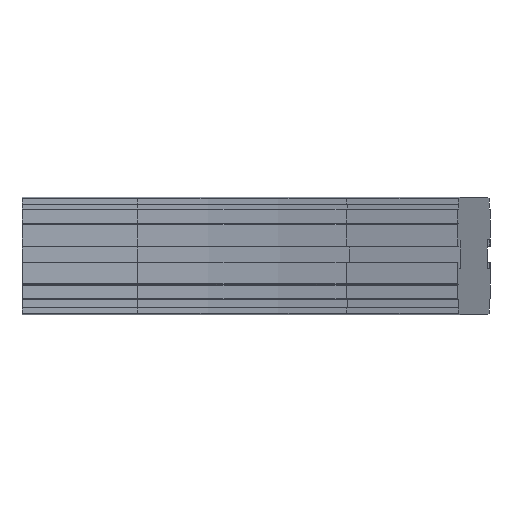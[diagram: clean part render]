
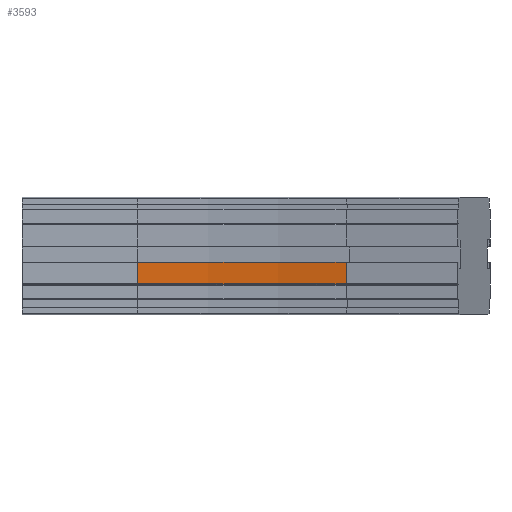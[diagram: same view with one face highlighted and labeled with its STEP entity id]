
A CAD part, front view. The second image highlights one B-rep face of the part: STEP entity #3593.
In plain terms, the highlighted cylindrical face has radius 557 mm (diameter 1114 mm), a partial arc.
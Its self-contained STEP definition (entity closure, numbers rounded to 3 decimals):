
#2261=CARTESIAN_POINT('',(224.162,-61.979,-60.));
#2262=VERTEX_POINT('',#2261);
#2292=CARTESIAN_POINT('',(224.162,-61.979,-45.));
#2293=VERTEX_POINT('',#2292);
#2300=CARTESIAN_POINT('',(224.162,-61.979,-60.));
#2301=DIRECTION('',(0.0,0.0,1.0));
#2302=VECTOR('',#2301,15.0);
#2303=LINE('',#2300,#2302);
#2304=EDGE_CURVE('',#2262,#2293,#2303,.T.);
#3550=CARTESIAN_POINT('',(80.0,-43.0,-60.));
#3551=VERTEX_POINT('',#3550);
#3552=CARTESIAN_POINT('',(80.0,-600.0,-60.));
#3553=DIRECTION('',(0.0,0.0,-1.));
#3554=DIRECTION('',(-0.259,-0.966,0.0));
#3555=AXIS2_PLACEMENT_3D('',#3552,#3553,#3554);
#3556=CIRCLE('',#3555,557.);
#3557=EDGE_CURVE('',#3551,#2262,#3556,.T.);
#3569=CARTESIAN_POINT('',(80.0,-600.0,-52.5));
#3570=DIRECTION('',(0.0,0.0,-1.0));
#3571=DIRECTION('',(-0.259,-0.966,0.0));
#3572=AXIS2_PLACEMENT_3D('',#3569,#3570,#3571);
#3573=CYLINDRICAL_SURFACE('',#3572,557.0);
#3574=ORIENTED_EDGE('',*,*,#2304,.T.);
#3575=CARTESIAN_POINT('',(80.0,-43.0,-45.));
#3576=VERTEX_POINT('',#3575);
#3577=CARTESIAN_POINT('',(80.0,-600.0,-45.));
#3578=DIRECTION('',(0.0,0.0,-1.));
#3579=DIRECTION('',(-0.259,-0.966,0.0));
#3580=AXIS2_PLACEMENT_3D('',#3577,#3578,#3579);
#3581=CIRCLE('',#3580,557.);
#3582=EDGE_CURVE('',#3576,#2293,#3581,.T.);
#3583=ORIENTED_EDGE('',*,*,#3582,.F.);
#3584=CARTESIAN_POINT('',(80.0,-43.0,-60.));
#3585=DIRECTION('',(0.0,0.0,1.0));
#3586=VECTOR('',#3585,15.0);
#3587=LINE('',#3584,#3586);
#3588=EDGE_CURVE('',#3551,#3576,#3587,.T.);
#3589=ORIENTED_EDGE('',*,*,#3588,.F.);
#3590=ORIENTED_EDGE('',*,*,#3557,.T.);
#3591=EDGE_LOOP('',(#3574,#3583,#3589,#3590));
#3592=FACE_OUTER_BOUND('',#3591,.T.);
#3593=ADVANCED_FACE('',(#3592),#3573,.F.);
